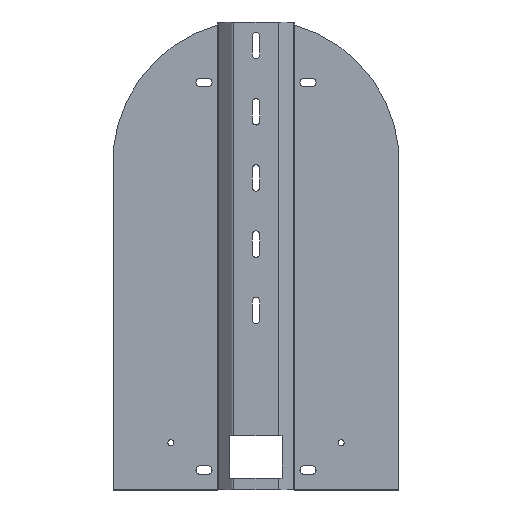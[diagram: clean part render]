
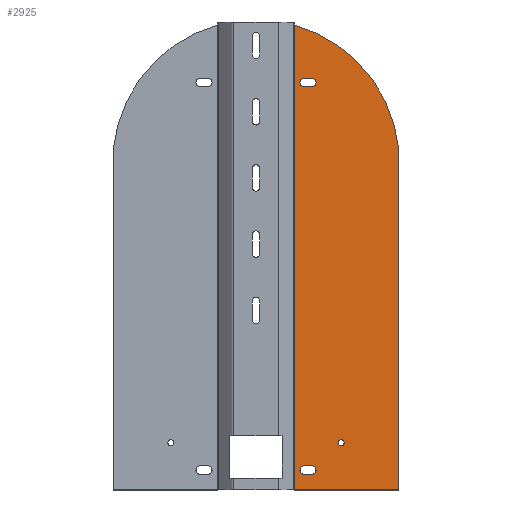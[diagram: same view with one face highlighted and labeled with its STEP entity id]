
A CAD part, top view. The second image highlights one B-rep face of the part: STEP entity #2925.
In plain terms, the highlighted planar face has unit normal (0, 0, 1).
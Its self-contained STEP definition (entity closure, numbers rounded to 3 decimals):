
#136=DIRECTION('',(1.,0.,0.));
#137=VECTOR('',#136,110.172);
#138=CARTESIAN_POINT('',(191.828,0.,2.));
#139=LINE('',#138,#137);
#1214=CARTESIAN_POINT('',(150.717,345.5,2.));
#1215=DIRECTION('',(0.,0.,-1.));
#1216=DIRECTION('',(0.27,0.963,0.));
#1217=AXIS2_PLACEMENT_3D('',#1214,#1215,#1216);
#1222=DIRECTION('',(0.,1.,0.));
#1223=VECTOR('',#1222,491.835);
#1224=CARTESIAN_POINT('',(191.828,0.,2.));
#1225=LINE('',#1224,#1223);
#1229=CARTESIAN_POINT('',(210.,431.,2.));
#1230=DIRECTION('',(0.,0.,1.));
#1231=DIRECTION('',(0.,-1.,0.));
#1232=AXIS2_PLACEMENT_3D('',#1229,#1230,#1231);
#1237=DIRECTION('',(-1.,0.,0.));
#1238=VECTOR('',#1237,8.);
#1239=CARTESIAN_POINT('',(210.,435.5,2.));
#1240=LINE('',#1239,#1238);
#1244=CARTESIAN_POINT('',(202.,431.,2.));
#1245=DIRECTION('',(0.,0.,1.));
#1246=DIRECTION('',(0.,1.,0.));
#1247=AXIS2_PLACEMENT_3D('',#1244,#1245,#1246);
#1252=DIRECTION('',(1.,0.,0.));
#1253=VECTOR('',#1252,8.);
#1254=CARTESIAN_POINT('',(202.,426.5,2.));
#1255=LINE('',#1254,#1253);
#1259=DIRECTION('',(-1.,0.,0.));
#1260=VECTOR('',#1259,8.);
#1261=CARTESIAN_POINT('',(210.,25.5,2.));
#1262=LINE('',#1261,#1260);
#1266=CARTESIAN_POINT('',(202.,21.,2.));
#1267=DIRECTION('',(0.,0.,1.));
#1268=DIRECTION('',(0.,1.,0.));
#1269=AXIS2_PLACEMENT_3D('',#1266,#1267,#1268);
#1274=DIRECTION('',(1.,0.,0.));
#1275=VECTOR('',#1274,8.);
#1276=CARTESIAN_POINT('',(202.,16.5,2.));
#1277=LINE('',#1276,#1275);
#1281=CARTESIAN_POINT('',(210.,21.,2.));
#1282=DIRECTION('',(0.,0.,1.));
#1283=DIRECTION('',(0.,-1.,0.));
#1284=AXIS2_PLACEMENT_3D('',#1281,#1282,#1283);
#1289=CARTESIAN_POINT('',(241.,50.,2.));
#1290=DIRECTION('',(0.,0.,1.));
#1291=DIRECTION('',(1.,0.,0.));
#1292=AXIS2_PLACEMENT_3D('',#1289,#1290,#1291);
#1297=CARTESIAN_POINT('',(241.,50.,2.));
#1298=DIRECTION('',(0.,0.,1.));
#1299=DIRECTION('',(-1.,0.,0.));
#1300=AXIS2_PLACEMENT_3D('',#1297,#1298,#1299);
#1312=DIRECTION('',(0.,1.,0.));
#1313=VECTOR('',#1312,360.25);
#1314=CARTESIAN_POINT('',(302.,0.,2.));
#1315=LINE('',#1314,#1313);
#1744=CARTESIAN_POINT('',(191.828,0.,2.));
#1745=VERTEX_POINT('',#1744);
#1746=CARTESIAN_POINT('',(302.,0.,2.));
#1747=VERTEX_POINT('',#1746);
#1799=CARTESIAN_POINT('',(191.828,491.835,2.));
#1801=VERTEX_POINT('',#1799);
#1807=CARTESIAN_POINT('',(302.,360.25,2.));
#1808=VERTEX_POINT('',#1807);
#1914=CARTESIAN_POINT('',(210.,426.5,2.));
#1915=CARTESIAN_POINT('',(210.,435.5,2.));
#1916=VERTEX_POINT('',#1914);
#1917=VERTEX_POINT('',#1915);
#1918=CARTESIAN_POINT('',(202.,435.5,2.));
#1919=VERTEX_POINT('',#1918);
#1920=CARTESIAN_POINT('',(202.,426.5,2.));
#1921=VERTEX_POINT('',#1920);
#1922=CARTESIAN_POINT('',(210.,25.5,2.));
#1923=CARTESIAN_POINT('',(202.,25.5,2.));
#1924=VERTEX_POINT('',#1922);
#1925=VERTEX_POINT('',#1923);
#1926=CARTESIAN_POINT('',(202.,16.5,2.));
#1927=VERTEX_POINT('',#1926);
#1928=CARTESIAN_POINT('',(210.,16.5,2.));
#1929=VERTEX_POINT('',#1928);
#1930=CARTESIAN_POINT('',(244.25,50.,2.));
#1931=CARTESIAN_POINT('',(237.75,50.,2.));
#1932=VERTEX_POINT('',#1930);
#1933=VERTEX_POINT('',#1931);
#2887=CARTESIAN_POINT('',(191.828,0.,2.));
#2888=DIRECTION('',(0.,0.,1.));
#2889=DIRECTION('',(1.,0.,0.));
#2890=AXIS2_PLACEMENT_3D('',#2887,#2888,#2889);
#2891=PLANE('',#2890);
#2892=ORIENTED_EDGE('',*,*,#2790,.T.);
#2894=ORIENTED_EDGE('',*,*,#2893,.F.);
#2895=ORIENTED_EDGE('',*,*,#2047,.F.);
#2896=ORIENTED_EDGE('',*,*,#2879,.T.);
#2897=EDGE_LOOP('',(#2892,#2894,#2895,#2896));
#2898=FACE_OUTER_BOUND('',#2897,.F.);
#2900=ORIENTED_EDGE('',*,*,#2899,.T.);
#2902=ORIENTED_EDGE('',*,*,#2901,.T.);
#2904=ORIENTED_EDGE('',*,*,#2903,.T.);
#2906=ORIENTED_EDGE('',*,*,#2905,.T.);
#2907=EDGE_LOOP('',(#2900,#2902,#2904,#2906));
#2908=FACE_BOUND('',#2907,.F.);
#2910=ORIENTED_EDGE('',*,*,#2909,.T.);
#2912=ORIENTED_EDGE('',*,*,#2911,.T.);
#2914=ORIENTED_EDGE('',*,*,#2913,.T.);
#2916=ORIENTED_EDGE('',*,*,#2915,.T.);
#2917=EDGE_LOOP('',(#2910,#2912,#2914,#2916));
#2918=FACE_BOUND('',#2917,.F.);
#2920=ORIENTED_EDGE('',*,*,#2919,.T.);
#2922=ORIENTED_EDGE('',*,*,#2921,.T.);
#2923=EDGE_LOOP('',(#2920,#2922));
#2924=FACE_BOUND('',#2923,.F.);
#1218=CIRCLE('',#1217,152.);
#1233=CIRCLE('',#1232,4.5);
#1248=CIRCLE('',#1247,4.5);
#1270=CIRCLE('',#1269,4.5);
#1285=CIRCLE('',#1284,4.5);
#1293=CIRCLE('',#1292,3.25);
#1301=CIRCLE('',#1300,3.25);
#2047=EDGE_CURVE('',#1745,#1747,#139,.T.);
#2790=EDGE_CURVE('',#1801,#1808,#1218,.T.);
#2879=EDGE_CURVE('',#1745,#1801,#1225,.T.);
#2893=EDGE_CURVE('',#1747,#1808,#1315,.T.);
#2899=EDGE_CURVE('',#1916,#1917,#1233,.T.);
#2901=EDGE_CURVE('',#1917,#1919,#1240,.T.);
#2903=EDGE_CURVE('',#1919,#1921,#1248,.T.);
#2905=EDGE_CURVE('',#1921,#1916,#1255,.T.);
#2909=EDGE_CURVE('',#1924,#1925,#1262,.T.);
#2911=EDGE_CURVE('',#1925,#1927,#1270,.T.);
#2913=EDGE_CURVE('',#1927,#1929,#1277,.T.);
#2915=EDGE_CURVE('',#1929,#1924,#1285,.T.);
#2919=EDGE_CURVE('',#1932,#1933,#1293,.T.);
#2921=EDGE_CURVE('',#1933,#1932,#1301,.T.);
#2925=ADVANCED_FACE('',(#2898,#2908,#2918,#2924),#2891,.T.);
